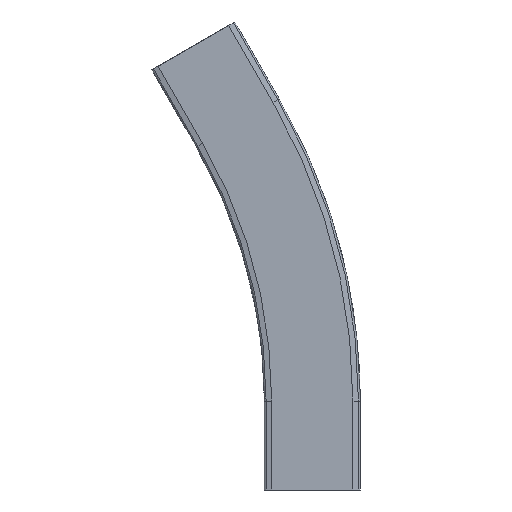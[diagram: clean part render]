
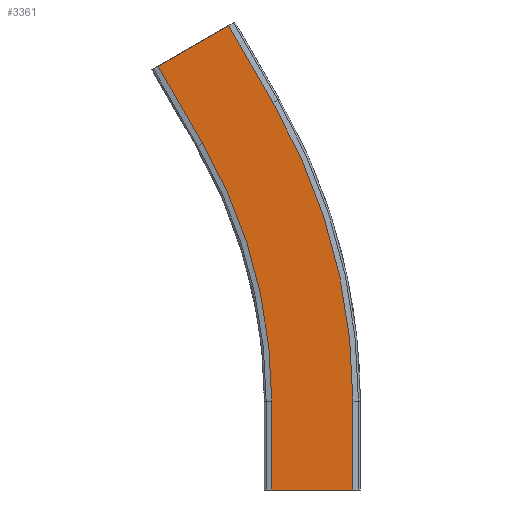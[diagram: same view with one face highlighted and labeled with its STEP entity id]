
A CAD part, front view. The second image highlights one B-rep face of the part: STEP entity #3361.
In plain terms, the highlighted planar face has unit normal (0, -1, 0).
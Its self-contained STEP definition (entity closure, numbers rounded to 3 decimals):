
#335=FACE_OUTER_BOUND('',#511,.T.);
#511=EDGE_LOOP('',(#3065,#3066,#3067,#3068,#3069,#3070,#3071,#3072));
#597=CIRCLE('',#3614,536.5);
#600=CIRCLE('',#3620,463.5);
#930=LINE('',#5777,#1288);
#935=LINE('',#5786,#1293);
#937=LINE('',#5791,#1295);
#952=LINE('',#5831,#1310);
#957=LINE('',#5842,#1315);
#958=LINE('',#5844,#1316);
#1288=VECTOR('',#4399,10.);
#1293=VECTOR('',#4406,10.);
#1295=VECTOR('',#4410,10.);
#1310=VECTOR('',#4451,10.);
#1315=VECTOR('',#4464,10.);
#1316=VECTOR('',#4467,10.);
#1612=VERTEX_POINT('',#5774);
#1613=VERTEX_POINT('',#5776);
#1616=VERTEX_POINT('',#5783);
#1617=VERTEX_POINT('',#5788);
#1627=VERTEX_POINT('',#5814);
#1629=VERTEX_POINT('',#5824);
#1630=VERTEX_POINT('',#5829);
#1632=VERTEX_POINT('',#5840);
#2080=EDGE_CURVE('',#1613,#1612,#930,.T.);
#2085=EDGE_CURVE('',#1613,#1616,#935,.T.);
#2087=EDGE_CURVE('',#1612,#1617,#937,.T.);
#2100=EDGE_CURVE('',#1617,#1627,#597,.T.);
#2106=EDGE_CURVE('',#1616,#1629,#600,.T.);
#2108=EDGE_CURVE('',#1627,#1630,#952,.T.);
#2113=EDGE_CURVE('',#1629,#1632,#957,.T.);
#2114=EDGE_CURVE('',#1630,#1632,#958,.T.);
#3065=ORIENTED_EDGE('',*,*,#2114,.T.);
#3066=ORIENTED_EDGE('',*,*,#2113,.F.);
#3067=ORIENTED_EDGE('',*,*,#2106,.F.);
#3068=ORIENTED_EDGE('',*,*,#2085,.F.);
#3069=ORIENTED_EDGE('',*,*,#2080,.T.);
#3070=ORIENTED_EDGE('',*,*,#2087,.T.);
#3071=ORIENTED_EDGE('',*,*,#2100,.T.);
#3072=ORIENTED_EDGE('',*,*,#2108,.T.);
#3190=PLANE('',#3626);
#3361=ADVANCED_FACE('',(#335),#3190,.T.);
#3614=AXIS2_PLACEMENT_3D('',#5816,#4431,#4432);
#3620=AXIS2_PLACEMENT_3D('',#5827,#4446,#4447);
#3626=AXIS2_PLACEMENT_3D('',#5843,#4465,#4466);
#4399=DIRECTION('',(1.,0.,0.));
#4406=DIRECTION('',(0.,0.,1.));
#4410=DIRECTION('',(0.,0.,1.));
#4431=DIRECTION('center_axis',(0.,-1.,0.));
#4432=DIRECTION('ref_axis',(1.,0.,0.));
#4446=DIRECTION('center_axis',(0.,-1.,0.));
#4447=DIRECTION('ref_axis',(1.,0.,0.));
#4451=DIRECTION('',(-0.5,0.,0.866));
#4464=DIRECTION('',(-0.5,0.,0.866));
#4465=DIRECTION('center_axis',(0.,-1.,0.));
#4466=DIRECTION('ref_axis',(0.5,0.,-0.866));
#4467=DIRECTION('',(-0.866,0.,-0.5));
#5774=CARTESIAN_POINT('',(36.5,-11.,0.));
#5776=CARTESIAN_POINT('',(-36.5,-11.,0.));
#5777=CARTESIAN_POINT('',(-36.5,-11.,0.));
#5783=CARTESIAN_POINT('',(-36.5,-11.,80.));
#5786=CARTESIAN_POINT('',(-36.5,-11.,0.));
#5788=CARTESIAN_POINT('',(36.5,-11.,80.));
#5791=CARTESIAN_POINT('',(36.5,-11.,0.));
#5814=CARTESIAN_POINT('',(-35.377,-11.,348.25));
#5816=CARTESIAN_POINT('Origin',(-500.,-11.,80.));
#5824=CARTESIAN_POINT('',(-98.597,-11.,311.75));
#5827=CARTESIAN_POINT('Origin',(-500.,-11.,80.));
#5829=CARTESIAN_POINT('',(-75.377,-11.,417.532));
#5831=CARTESIAN_POINT('',(135.522,-11.,52.243));
#5840=CARTESIAN_POINT('',(-138.597,-11.,381.032));
#5842=CARTESIAN_POINT('',(72.302,-11.,15.743));
#5843=CARTESIAN_POINT('Origin',(135.522,-11.,52.243));
#5844=CARTESIAN_POINT('',(-89.883,-11.,409.157));
